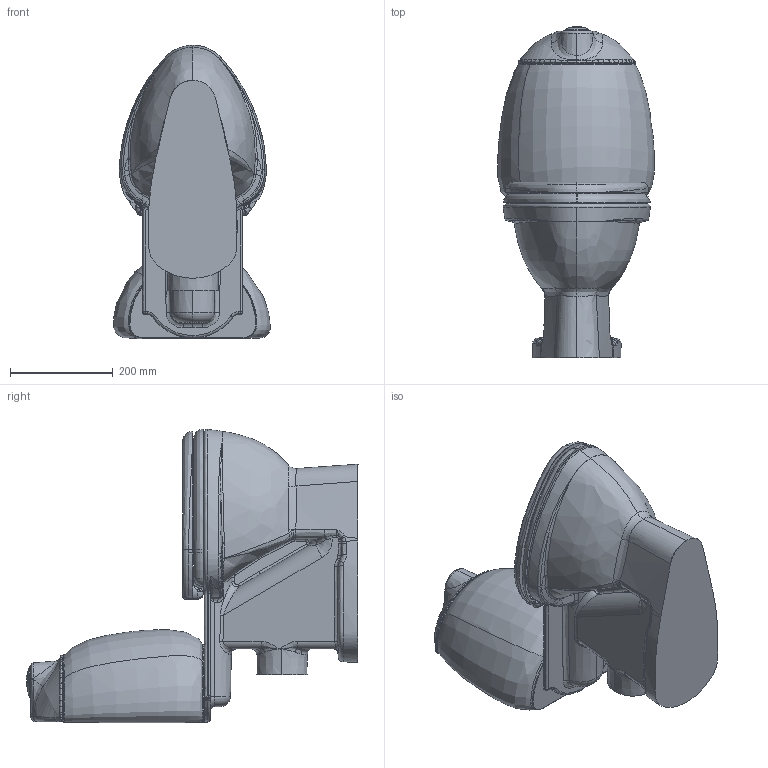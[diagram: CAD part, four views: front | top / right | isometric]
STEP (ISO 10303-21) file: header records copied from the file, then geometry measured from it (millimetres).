
FILE_DESCRIPTION (( 'STEP AP203' ), '1' );
FILE_NAME ('CK310-00CB00E-FF00-.STEP', '2022-11-30T07:48:54', ( '' ), ( '' ), 'SwSTEP 2.0', 'SolidWorks 2021', '' );
FILE_SCHEMA (( 'CONFIG_CONTROL_DESIGN' ));
Products named in the file (1): CK310-00CB00E-FF00-
Bounding box: 304.78 x 645.3 x 570.37 mm (x, y, z)
Surface area: 1368710 mm2 (no closed solid volume)
Topology: 0 solids, 9 shells, 693 faces, 1761 edges, 1060 vertices
Faces by surface type: bspline 426, cylinder 99, plane 87, torus 59, cone 16, sphere 6
Entity records: 95592 total; most frequent: CARTESIAN_POINT 82295, ORIENTED_EDGE 3451, DIRECTION 1833, EDGE_CURVE 1728, VERTEX_POINT 1060, B_SPLINE_CURVE_WITH_KNOTS 868, AXIS2_PLACEMENT_3D 787, EDGE_LOOP 709
